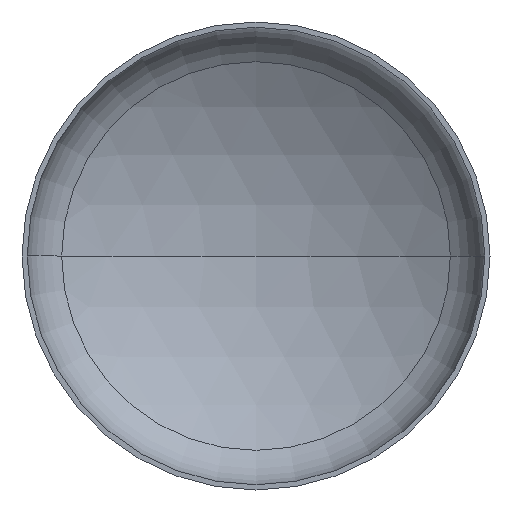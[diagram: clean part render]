
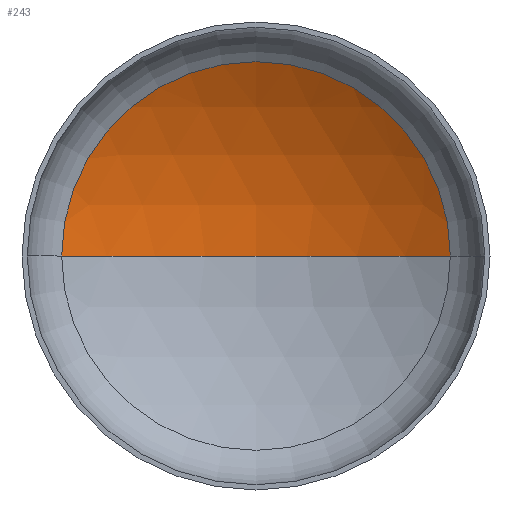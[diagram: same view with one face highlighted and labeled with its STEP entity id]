
A CAD part, front view. The second image highlights one B-rep face of the part: STEP entity #243.
In plain terms, the highlighted spherical face has radius 1360 mm.
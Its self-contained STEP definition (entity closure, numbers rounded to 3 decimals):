
#1 = VERTEX_POINT ( 'NONE', #46 ) ;
#3 = AXIS2_PLACEMENT_3D ( 'NONE', #328, #322, #320 ) ;
#14 = ORIENTED_EDGE ( 'NONE', *, *, #378, .F. ) ;
#19 = AXIS2_PLACEMENT_3D ( 'NONE', #390, #207, #134 ) ;
#22 = AXIS2_PLACEMENT_3D ( 'NONE', #324, #206, #265 ) ;
#46 = CARTESIAN_POINT ( 'NONE',  ( -705.964, 282.227, 0. ) ) ;
#51 = AXIS2_PLACEMENT_3D ( 'NONE', #161, #341, #368 ) ;
#69 = VERTEX_POINT ( 'NONE', #222 ) ;
#77 = VERTEX_POINT ( 'NONE', #211 ) ;
#117 = EDGE_LOOP ( 'NONE', ( #14, #279, #122 ) ) ;
#122 = ORIENTED_EDGE ( 'NONE', *, *, #325, .T. ) ;
#134 = DIRECTION ( 'NONE',  ( -1., 0., 0. ) ) ;
#159 = CIRCLE ( 'NONE', #19, 1360. ) ;
#161 = CARTESIAN_POINT ( 'NONE',  ( 0., -880.191, 0. ) ) ;
#204 = CIRCLE ( 'NONE', #3, 1360. ) ;
#206 = DIRECTION ( 'NONE',  ( 0., -1., 0. ) ) ;
#207 = DIRECTION ( 'NONE',  ( 0., 0., -1. ) ) ;
#211 = CARTESIAN_POINT ( 'NONE',  ( 0., 479.809, 0. ) ) ;
#222 = CARTESIAN_POINT ( 'NONE',  ( 705.964, 282.227, 0. ) ) ;
#243 = ADVANCED_FACE ( 'NONE', ( #380 ), #310, .F. ) ;
#265 = DIRECTION ( 'NONE',  ( 1., 0., 0. ) ) ;
#279 = ORIENTED_EDGE ( 'NONE', *, *, #332, .T. ) ;
#294 = CIRCLE ( 'NONE', #22, 705.964 ) ;
#310 = SPHERICAL_SURFACE ( 'NONE', #51, 1360. ) ;
#320 = DIRECTION ( 'NONE',  ( 1., 0., 0. ) ) ;
#322 = DIRECTION ( 'NONE',  ( 0., 0., 1. ) ) ;
#324 = CARTESIAN_POINT ( 'NONE',  ( 0., 282.227, 0. ) ) ;
#325 = EDGE_CURVE ( 'NONE', #69, #1, #294, .T. ) ;
#328 = CARTESIAN_POINT ( 'NONE',  ( 0., -880.191, 0. ) ) ;
#332 = EDGE_CURVE ( 'NONE', #77, #69, #159, .T. ) ;
#341 = DIRECTION ( 'NONE',  ( 0., 0., -1. ) ) ;
#368 = DIRECTION ( 'NONE',  ( -1., 0., 0. ) ) ;
#378 = EDGE_CURVE ( 'NONE', #77, #1, #204, .T. ) ;
#380 = FACE_OUTER_BOUND ( 'NONE', #117, .T. ) ;
#390 = CARTESIAN_POINT ( 'NONE',  ( 0., -880.191, 0. ) ) ;
